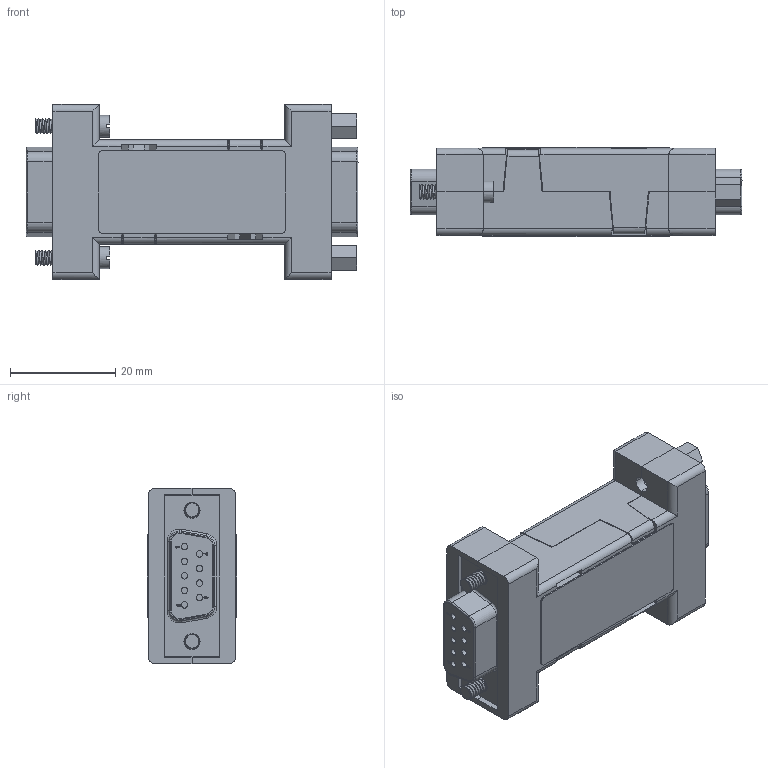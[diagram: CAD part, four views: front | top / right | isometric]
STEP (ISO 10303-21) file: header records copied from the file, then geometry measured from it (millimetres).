
FILE_DESCRIPTION (( 'STEP AP214' ), '1' );
FILE_NAME ('422PP9R.STEP', '2018-08-07T16:06:13', ( '' ), ( '' ), 'SwSTEP 2.0', 'SolidWorks 2016', '' );
FILE_SCHEMA (( 'AUTOMOTIVE_DESIGN' ));
Length unit declared in the file: inch
Products named in the file (9): 9522 hexstdoff; 9667; 1267 DB9 Female; 250-10703-00 Label; 4886 PCB; 957-009-0Y0R0Y1; 9522 Hood; 957 Jackscrew; 422PP9R
Assembly tree (12 placements, depth 3):
  422PP9R
    957-009-0Y0R0Y1
      957 Jackscrew  x2
      9522 Hood  x2
    4886 PCB
    250-10703-00 Label
    1267 DB9 Female  x2
    9667
    9522 hexstdoff  x2
Bounding box: 63.17 x 17.09 x 33.3 mm (x, y, z)
Volume: 13034.5 mm3; surface area: 19453.6 mm2
Topology: 11 solids, 11 shells, 1090 faces, 2774 edges, 1790 vertices
Faces by surface type: plane 546, cylinder 406, bspline 98, torus 40
Entity records: 22104 total; most frequent: CARTESIAN_POINT 6795, ORIENTED_EDGE 2822, DIRECTION 2524, EDGE_CURVE 1411, VERTEX_POINT 911, LINE 874, VECTOR 874, AXIS2_PLACEMENT_3D 825
